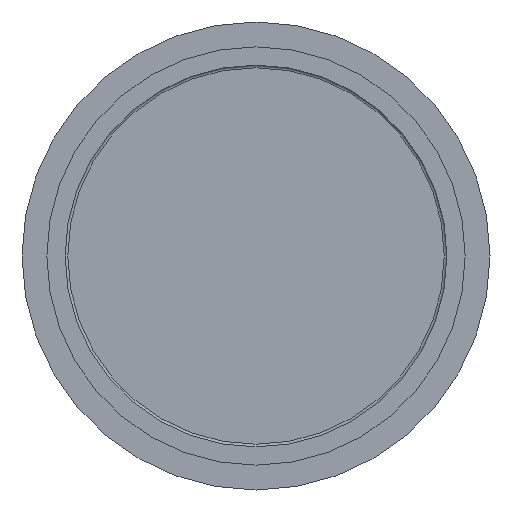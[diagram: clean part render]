
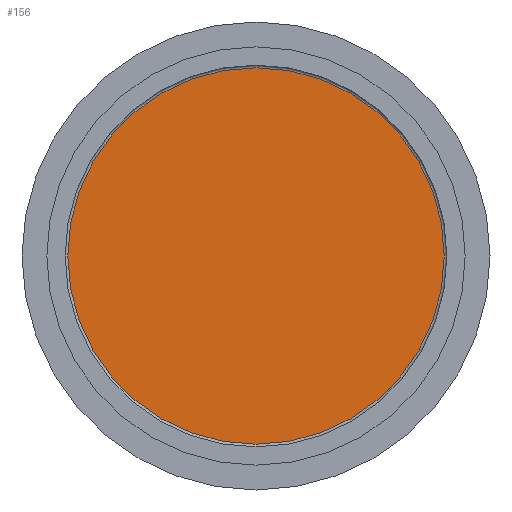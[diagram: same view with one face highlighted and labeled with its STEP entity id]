
A CAD part, left-side view. The second image highlights one B-rep face of the part: STEP entity #156.
In plain terms, the highlighted planar face has unit normal (-1, 0, 0).
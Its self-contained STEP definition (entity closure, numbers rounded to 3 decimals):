
#19=PLANE($,#180);
#40=FACE_OUTER_BOUND($,#58,.T.);
#58=EDGE_LOOP($,(#127));
#76=CIRCLE($,#181,72.);
#89=VERTEX_POINT($,#296);
#103=EDGE_CURVE($,#89,#89,#76,.T.);
#127=ORIENTED_EDGE($,*,*,#103,.F.);
#156=ADVANCED_FACE($,(#40),#19,.T.);
#180=AXIS2_PLACEMENT_3D($,#295,#223,#224);
#181=AXIS2_PLACEMENT_3D($,#297,#225,#226);
#223=DIRECTION('center_axis',(-1.,0.,0.));
#224=DIRECTION('ref_axis',(0.,0.,1.));
#225=DIRECTION('center_axis',(1.,0.,0.));
#226=DIRECTION('ref_axis',(0.,0.,-1.));
#295=CARTESIAN_POINT('Origin',(28.,72.,0.));
#296=CARTESIAN_POINT('',(28.,72.,0.));
#297=CARTESIAN_POINT('Origin',(28.,0.,0.));
